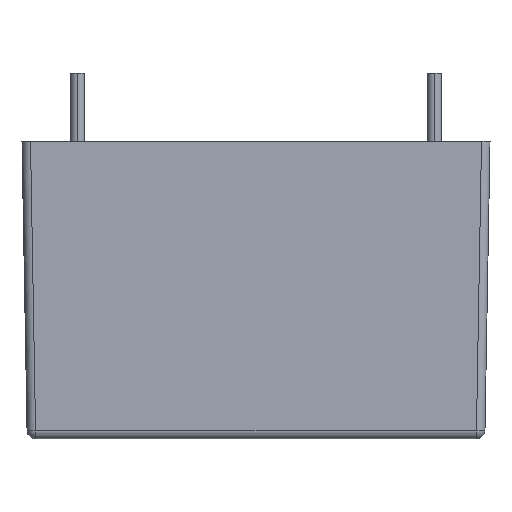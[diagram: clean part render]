
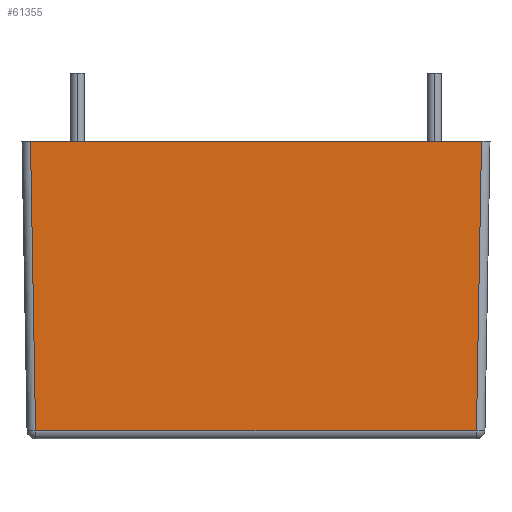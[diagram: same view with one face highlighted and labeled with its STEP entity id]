
A CAD part, left-side view. The second image highlights one B-rep face of the part: STEP entity #61355.
In plain terms, the highlighted planar face has unit normal (-1, 0, -0.018).
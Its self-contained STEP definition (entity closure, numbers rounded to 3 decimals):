
#51293 = CARTESIAN_POINT ( 'NONE',  ( -18.501, 13.751, 16.7 ) ) ;
#51294 = LINE ( 'NONE', #51293, #51312 ) ;
#51311 = DIRECTION ( 'NONE',  ( 0., -1., 0. ) ) ;
#51312 = VECTOR ( 'NONE', #51311, 1000. ) ;
#51318 = CARTESIAN_POINT ( 'NONE',  ( -18.501, 13.252, 16.7 ) ) ;
#51337 = CARTESIAN_POINT ( 'NONE',  ( -18.501, -13.252, 16.7 ) ) ;
#51363 = CARTESIAN_POINT ( 'NONE',  ( -18.205, -12.955, -0.309 ) ) ;
#51441 = PLANE ( 'NONE',  #51452 ) ;
#51442 = FACE_OUTER_BOUND ( 'NONE', #60637, .T. ) ;
#51444 = DIRECTION ( 'NONE',  ( 0., -1., 0. ) ) ;
#51445 = CARTESIAN_POINT ( 'NONE',  ( -18.205, -13.446, -0.309 ) ) ;
#51446 = LINE ( 'NONE', #51445, #51505 ) ;
#51452 = AXIS2_PLACEMENT_3D ( 'NONE', #51498, #51497, #51496 ) ;
#51455 = LINE ( 'NONE', #51503, #51502 ) ;
#51471 = CARTESIAN_POINT ( 'NONE',  ( -18.205, 12.955, -0.309 ) ) ;
#51486 = DIRECTION ( 'NONE',  ( -0.017, -0.017, 1. ) ) ;
#51487 = VECTOR ( 'NONE', #51486, 1000. ) ;
#51494 = CARTESIAN_POINT ( 'NONE',  ( -18.493, -13.243, 16.229 ) ) ;
#51495 = LINE ( 'NONE', #51494, #51487 ) ;
#51496 = DIRECTION ( 'NONE',  ( -0.017, 0., 1. ) ) ;
#51497 = DIRECTION ( 'NONE',  ( -1., 0., -0.017 ) ) ;
#51498 = CARTESIAN_POINT ( 'NONE',  ( -18.501, 13.751, 16.7 ) ) ;
#51501 = DIRECTION ( 'NONE',  ( 0.017, -0.017, -1. ) ) ;
#51502 = VECTOR ( 'NONE', #51501, 1000. ) ;
#51503 = CARTESIAN_POINT ( 'NONE',  ( -18.502, 13.252, 16.709 ) ) ;
#51505 = VECTOR ( 'NONE', #51444, 1000. ) ;
#60359 = VERTEX_POINT ( 'NONE', #51318 ) ;
#60389 = EDGE_CURVE ( 'NONE', #60359, #60626, #51294, .T. ) ;
#60626 = VERTEX_POINT ( 'NONE', #51337 ) ;
#60627 = VERTEX_POINT ( 'NONE', #51363 ) ;
#60637 = EDGE_LOOP ( 'NONE', ( #61370, #61361, #61295, #61347 ) ) ;
#61107 = VERTEX_POINT ( 'NONE', #51471 ) ;
#61295 = ORIENTED_EDGE ( 'NONE', *, *, #61331, .T. ) ;
#61331 = EDGE_CURVE ( 'NONE', #61107, #60627, #51446, .T. ) ;
#61347 = ORIENTED_EDGE ( 'NONE', *, *, #61366, .T. ) ;
#61352 = EDGE_CURVE ( 'NONE', #60359, #61107, #51455, .T. ) ;
#61355 = ADVANCED_FACE ( 'NONE', ( #51442 ), #51441, .T. ) ;
#61361 = ORIENTED_EDGE ( 'NONE', *, *, #61352, .T. ) ;
#61366 = EDGE_CURVE ( 'NONE', #60627, #60626, #51495, .T. ) ;
#61370 = ORIENTED_EDGE ( 'NONE', *, *, #60389, .F. ) ;
